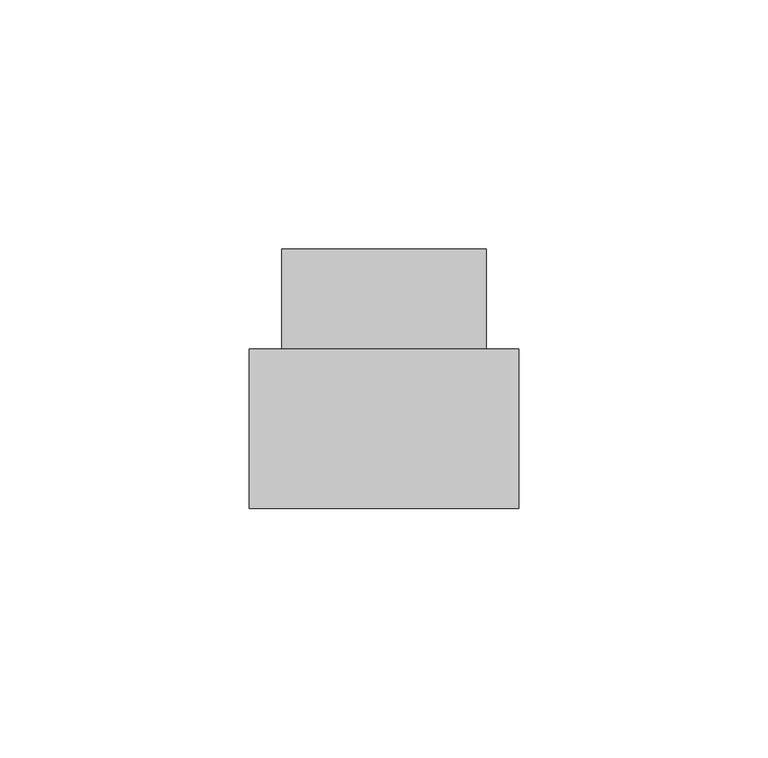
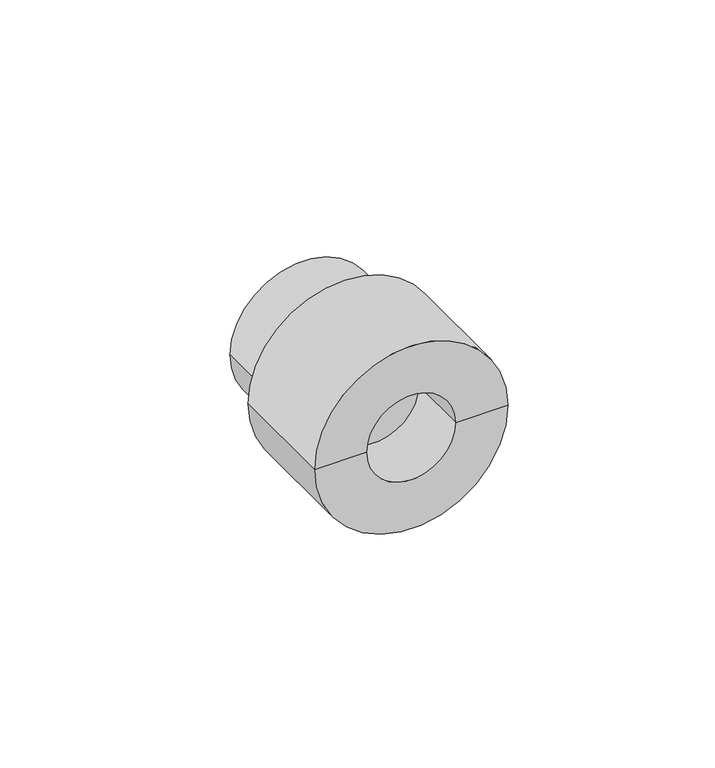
"""IFC4 building model written with IfcOpenShell, lengths in millimetres: pipe fitting geometry, NIRON RED termofusion roscado enlace rosca hembra : Estándar."""

from ifc_helpers import new_model, si_unit, frame, origin, place, context, project, spatial, polyline, circle_curve, source, transform, mapped, element, save
from ifc_brep_helpers import plane_surface, cylinder_surface, revolved_surface, advanced_brep


def pipe_fitting_a6658a69(model_context):
    return source(origin(), model_context, "Body", "AdvancedBrep", [
        advanced_brep(
        [(20.5, 52.0, 0.0), (-20.5, 52.0, 0.0), (0.0, 52.0, 0.0), (27.0, 0.0, 0.0), (-27.0, 0.0, 0.0), (-27.0, 32.0, 0.0), (27.0, 32.0, 0.0), (12.5, 0.0, 0.0), (-12.5, 0.0, 0.0), (20.5, 32.0, 0.0), (-20.5, 32.0, 0.0), (-12.5, 18.0, 0.0), (12.5, 18.0, 0.0)],
        [
            (0, 1, circle_curve(frame((0.0, 52.0, 0.0), z_axis=(0.0, 1.0, 0.0), x_axis=(-1.0, 0.0, 0.0)), 20.5)),
            (1, 2),
            (2, 0),
            (1, 0, circle_curve(frame((0.0, 52.0, 0.0), z_axis=(0.0, 1.0, 0.0), x_axis=(-1.0, 0.0, 0.0)), 20.5)),
            (3, 4, circle_curve(frame((0.0, 0.0, 0.0), z_axis=(0.0, 1.0, 0.0), x_axis=(-1.0, 0.0, 0.0)), 27.0)),
            (4, 5),
            (5, 6, circle_curve(frame((0.0, 32.0, 0.0), z_axis=(0.0, -1.0, 0.0), x_axis=(-1.0, 0.0, 0.0)), 27.0)),
            (6, 3),
            (4, 3, circle_curve(frame((0.0, 0.0, 0.0), z_axis=(0.0, 1.0, 0.0), x_axis=(-1.0, 0.0, 0.0)), 27.0)),
            (6, 5, circle_curve(frame((0.0, 32.0, 0.0), z_axis=(0.0, -1.0, 0.0), x_axis=(-1.0, 0.0, 0.0)), 27.0)),
            (3, 7),
            (7, 8, circle_curve(frame((0.0, 0.0, 0.0), z_axis=(0.0, 1.0, 0.0), x_axis=(1.0, 0.0, 0.0)), 12.5)),
            (8, 4),
            (8, 7, circle_curve(frame((0.0, 0.0, 0.0), z_axis=(0.0, 1.0, 0.0), x_axis=(1.0, 0.0, 0.0)), 12.5)),
            (0, 9),
            (9, 10, circle_curve(frame((0.0, 32.0, 0.0), z_axis=(0.0, 1.0, 0.0), x_axis=(-1.0, 0.0, 0.0)), 20.5)),
            (10, 1),
            (10, 9, circle_curve(frame((0.0, 32.0, 0.0), z_axis=(0.0, 1.0, 0.0), x_axis=(-1.0, 0.0, 0.0)), 20.5)),
            (5, 10),
            (9, 6),
            (11, 12, circle_curve(frame((0.0, 18.0, 0.0), z_axis=(0.0, -1.0, 0.0), x_axis=(1.0, 0.0, 0.0)), 12.5)),
            (12, 11, circle_curve(frame((0.0, 18.0, 0.0), z_axis=(0.0, -1.0, 0.0), x_axis=(1.0, 0.0, 0.0)), 12.5)),
            (11, 8),
            (7, 12),
        ],
        [
            plane_surface(frame((0.0, 52.0, 0.0), z_axis=(0.0, 1.0, 0.0), x_axis=(-1.0, 0.0, 0.0))),
            cylinder_surface(frame((0.0, 62.0, 0.0), z_axis=(0.0, -1.0, 0.0), x_axis=(-1.0, 0.0, 0.0)), 27.0),
            plane_surface(frame((0.0, 0.0, 0.0), z_axis=(0.0, -1.0, 0.0), x_axis=(-1.0, 0.0, 0.0))),
            cylinder_surface(frame((0.0, 62.0, 0.0), z_axis=(0.0, -1.0, 0.0), x_axis=(-1.0, 0.0, 0.0)), 20.5),
            plane_surface(frame((0.0, 32.0, 0.0), z_axis=(0.0, 1.0, 0.0), x_axis=(-1.0, 0.0, 0.0))),
            plane_surface(frame((12.5, 18.0, 0.0), z_axis=(0.0, -1.0, 0.0), x_axis=(0.0, 0.0, -1.0))),
            revolved_surface(polyline([(12.5, 0.0, 0.0), (12.5, 18.0, 0.0)]), (0.0, 18.0, 0.0), (0.0, -1.0, 0.0)),
        ],
        [
            (0, [[1, 2, 3]]),
            (0, [[-2, 4, -3]]),
            (1, [[5, 6, 7, 8]]),
            (1, [[-6, 9, -8, 10]]),
            (2, [[-5, 11, 12, 13]]),
            (2, [[-9, -13, 14, -11]]),
            (3, [[-1, 15, 16, 17]]),
            (3, [[-4, -17, 18, -15]]),
            (4, [[-7, 19, -16, 20]]),
            (4, [[-10, -20, -18, -19]]),
            (5, [[21, 22]]),
            (6, [[-21, 23, -12, 24]]),
            (6, [[-22, -24, -14, -23]]),
        ],
    ),
    ])


if __name__ == "__main__":
    model = new_model("IFC4")
    model_context = context("Model", 3, world=origin())
    ifc_project = project(units=[si_unit("LENGTHUNIT", "METRE", prefix="MILLI")], contexts=[model_context])
    site = spatial("IfcSite", under=ifc_project)
    building = spatial("IfcBuilding", under=site)
    placement = place(None, origin())
    pipe_fitting_shape = pipe_fitting_a6658a69(model_context)
    element("IfcPipeFitting", 1, ObjectType="NIRON RED termofusion roscado enlace rosca hembra : Estándar", at=placement, inside=building, context=model_context, shape_type="MappedRepresentation", body=[
        mapped(pipe_fitting_shape, transform((0.0, 0.0, 0.0), x_axis=(1.0, 0.0, 0.0), y_axis=(0.0, 1.0, 0.0), z_axis=(0.0, 0.0, 1.0))),
    ])
    save(model, "model.ifc")
